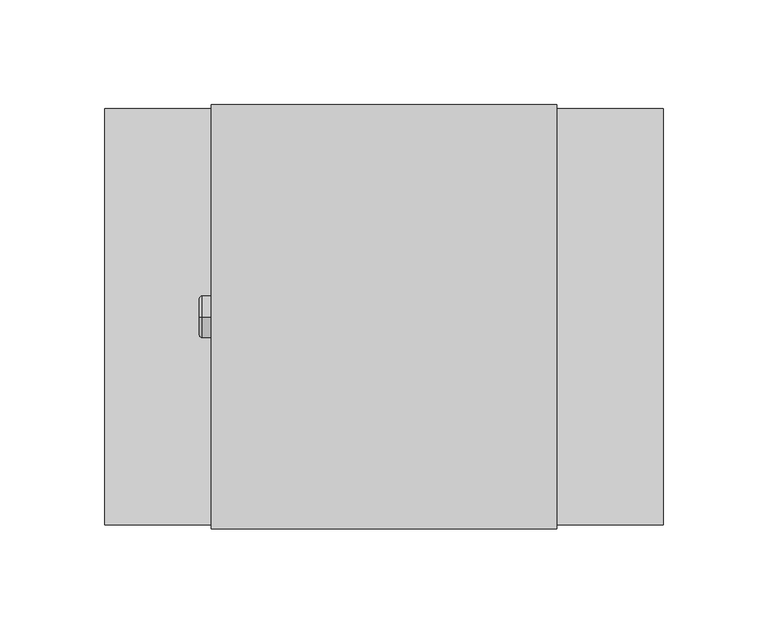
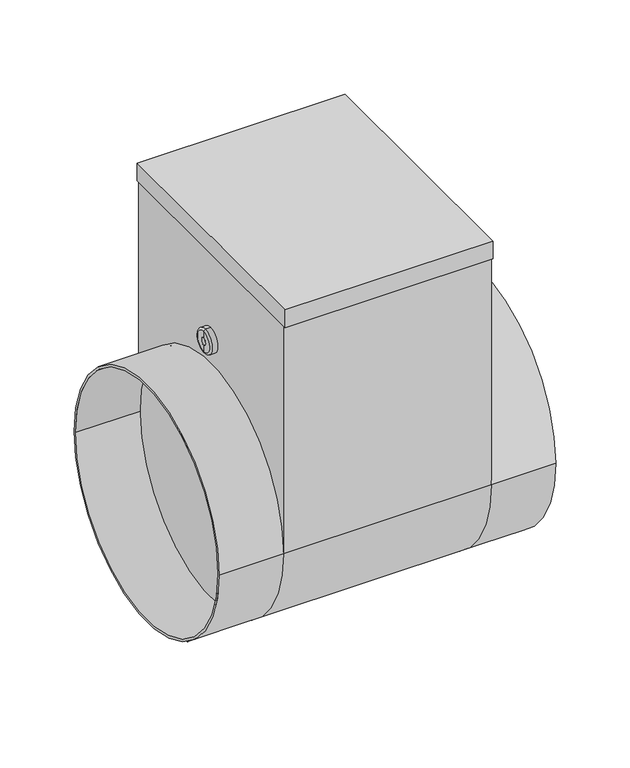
"""IFC4 building model written with IfcOpenShell, lengths in millimetres: proxy geometry, СВ_ВоздухонагревательЭлектрический_КанальныйКруглый_DN100-315_SKH-E : SKH-E-200/3."""

from ifc_helpers import new_model, si_unit, point, frame, origin, place, context, project, spatial, polyline, circle_curve, ellipse_curve, trimmed, outline, extrude, source, transform, mapped, element, save
from ifc_brep_helpers import plane_surface, cylinder_surface, revolved_surface, advanced_brep


def mechanical_equipment_28e9e6f9(model_context):
    return source(origin(), model_context, "Body", "SolidModel", [
        extrude(outline(polyline([(82.5, -101.5), (-82.5, -101.5), (-82.5, 101.5), (82.5, 101.5), (82.5, -101.5)])), frame((0.0, 0.0, 190.5), z_axis=(0.0, 0.0, 1.0), x_axis=(1.0, 0.0, 0.0)), (0.0, 0.0, 1.0), 15.0),
        advanced_brep(
        [(-133.5, -99.5, 0.0), (-133.5, 99.5, 0.0), (-133.5, -97.5, 0.0), (-133.5, 97.5, 0.0), (-82.5, 97.5, 0.0), (-82.5, -97.5, 0.0), (-82.5, 99.5, 0.0), (-82.5, -99.5, 0.0), (82.5, -97.5, 0.0), (82.5, 97.5, 0.0), (82.5, -99.5, 190.5), (82.5, -99.5, 0.0), (82.5, 99.5, 0.0), (82.5, 99.5, 190.5), (-82.5, -99.5, 190.5), (-82.5, 99.5, 190.5), (133.5, -99.5, 0.0), (133.5, 99.5, 0.0), (133.5, -97.5, 0.0), (133.5, 97.5, 0.0)],
        [
            (0, 1, circle_curve(frame((-133.5, 0.0, 0.0), z_axis=(-1.0, 0.0, 0.0), x_axis=(0.0, 1.0, 0.0)), 99.5)),
            (1, 0, circle_curve(frame((-133.5, 0.0, 0.0), z_axis=(-1.0, 0.0, 0.0), x_axis=(0.0, 1.0, 0.0)), 99.5)),
            (2, 3, circle_curve(frame((-133.5, 0.0, 0.0), z_axis=(1.0, 0.0, 0.0), x_axis=(0.0, 1.0, 0.0)), 97.5)),
            (3, 2, circle_curve(frame((-133.5, 0.0, 0.0), z_axis=(1.0, 0.0, 0.0), x_axis=(0.0, 1.0, 0.0)), 97.5)),
            (3, 4),
            (4, 5, circle_curve(frame((-82.5, 0.0, 0.0), z_axis=(1.0, 0.0, 0.0), x_axis=(0.0, 1.0, 0.0)), 97.5)),
            (5, 2),
            (5, 4, circle_curve(frame((-82.5, 0.0, 0.0), z_axis=(1.0, 0.0, 0.0), x_axis=(0.0, 1.0, 0.0)), 97.5)),
            (1, 6),
            (6, 7, circle_curve(frame((-82.5, 0.0, 0.0), z_axis=(-1.0, 0.0, 0.0), x_axis=(0.0, 1.0, 0.0)), 99.5)),
            (7, 0),
            (7, 6, circle_curve(frame((-82.5, 0.0, 0.0), z_axis=(-1.0, 0.0, 0.0), x_axis=(0.0, 1.0, 0.0)), 99.5)),
            (8, 9, circle_curve(frame((82.5, 0.0, 0.0), z_axis=(1.0, 0.0, 0.0), x_axis=(0.0, 1.0, 0.0)), 97.5)),
            (9, 8, circle_curve(frame((82.5, 0.0, 0.0), z_axis=(1.0, 0.0, 0.0), x_axis=(0.0, 1.0, 0.0)), 97.5)),
            (10, 11),
            (11, 12, circle_curve(frame((82.5, 0.0, 0.0), z_axis=(-1.0, 0.0, 0.0), x_axis=(0.0, 1.0, 0.0)), 99.5)),
            (12, 13),
            (13, 10),
            (7, 14),
            (14, 15),
            (15, 6),
            (6, 12),
            (12, 11, circle_curve(frame((82.5, 0.0, 0.0), z_axis=(-1.0, 0.0, 0.0), x_axis=(0.0, 1.0, 0.0)), 99.5)),
            (11, 7),
            (16, 17, circle_curve(frame((133.5, 0.0, 0.0), z_axis=(1.0, 0.0, 0.0), x_axis=(0.0, 1.0, 0.0)), 99.5)),
            (17, 16, circle_curve(frame((133.5, 0.0, 0.0), z_axis=(1.0, 0.0, 0.0), x_axis=(0.0, 1.0, 0.0)), 99.5)),
            (18, 19, circle_curve(frame((133.5, 0.0, 0.0), z_axis=(-1.0, 0.0, 0.0), x_axis=(0.0, 1.0, 0.0)), 97.5)),
            (19, 18, circle_curve(frame((133.5, 0.0, 0.0), z_axis=(-1.0, 0.0, 0.0), x_axis=(0.0, 1.0, 0.0)), 97.5)),
            (18, 8),
            (9, 19),
            (16, 11),
            (12, 17),
            (10, 14),
            (15, 13),
        ],
        [
            plane_surface(frame((-133.5, 97.5, 0.0), z_axis=(-1.0, 0.0, 0.0), x_axis=(0.0, 0.0, 1.0))),
            revolved_surface(polyline([(-133.5, 97.5, 0.0), (-82.5, 97.5, 0.0)]), (-133.5, 0.0, 0.0), (-1.0, 0.0, 0.0)),
            cylinder_surface(frame((0.0, 0.0, 0.0), z_axis=(1.0, 0.0, 0.0), x_axis=(0.0, 1.0, 0.0)), 99.5),
            plane_surface(frame((82.5, 99.5, 0.0), z_axis=(1.0, 0.0, 0.0), x_axis=(0.0, -1.0, 0.0))),
            plane_surface(frame((-82.5, 99.5, 0.0), z_axis=(-1.0, 0.0, 0.0), x_axis=(0.0, 1.0, 0.0))),
            cylinder_surface(frame((-82.5, 0.0, 0.0), z_axis=(1.0, 0.0, 0.0), x_axis=(0.0, 1.0, 0.0)), 99.5),
            plane_surface(frame((133.5, 97.5, 0.0), z_axis=(1.0, 0.0, 0.0), x_axis=(0.0, 0.0, -1.0))),
            revolved_surface(polyline([(82.5, 97.5, 0.0), (133.5, 97.5, 0.0)]), (82.5, 0.0, 0.0), (-1.0, 0.0, 0.0)),
            plane_surface(frame((-82.5, -99.5, 190.5), z_axis=(0.0, -1.0, 0.0), x_axis=(-1.0, 0.0, 0.0))),
            plane_surface(frame((-82.5, 99.5, 190.5), z_axis=(0.0, 1.0, 0.0), x_axis=(1.0, 0.0, 0.0))),
            plane_surface(frame((82.5, -99.5, 190.5), z_axis=(0.0, 0.0, 1.0), x_axis=(0.0, 1.0, 0.0))),
        ],
        [
            (0, [[1, 2], [3, 4]]),
            (1, [[-4, 5, 6, 7]]),
            (1, [[-3, -7, 8, -5]]),
            (2, [[-2, 9, 10, 11]]),
            (2, [[-1, -11, 12, -9]]),
            (3, [[13, 14]]),
            (3, [[15, 16, 17, 18]]),
            (4, [[-8, -6]]),
            (4, [[19, 20, 21, -12]]),
            (5, [[-10, 22, 23, 24]]),
            (6, [[25, 26], [27, 28]]),
            (7, [[-27, 29, -14, 30]]),
            (7, [[-28, -30, -13, -29]]),
            (2, [[-25, 31, -23, 32]]),
            (2, [[-26, -32, -16, -31]]),
            (8, [[33, -19, -24, -15]]),
            (9, [[-17, -22, -21, 34]]),
            (10, [[-33, -18, -34, -20]]),
        ],
    ),
        advanced_brep(
        [(-86.7840134, 0.0, 109.5), (-86.7840134, 0.0, 129.5), (-82.5, 0.0, 129.5), (-82.5, 0.0, 109.5), (-88.2459771, 0.0, 110.9619637), (-88.2459771, 0.0, 128.0380363), (-88.2459771, 0.0, 116.3948071), (-88.2459771, 0.0, 122.6051929), (-85.9138357, 0.0, 116.3948071), (-85.9138357, 0.0, 122.6051929), (-85.9138357, 0.0, 119.5), (-82.5, 0.0, 119.5)],
        [
            (0, 1, circle_curve(frame((-86.7840134, 0.0, 119.5), z_axis=(1.0, 0.0, 0.0), x_axis=(0.0, 0.0, 1.0)), 10.0)),
            (1, 2),
            (2, 3, circle_curve(frame((-82.5, 0.0, 119.5), z_axis=(-1.0, 0.0, 0.0), x_axis=(0.0, 0.0, 1.0)), 10.0)),
            (3, 0),
            (1, 0, circle_curve(frame((-86.7840134, 0.0, 119.5), z_axis=(1.0, 0.0, 0.0), x_axis=(0.0, 0.0, 1.0)), 10.0)),
            (3, 2, circle_curve(frame((-82.5, 0.0, 119.5), z_axis=(-1.0, 0.0, 0.0), x_axis=(0.0, 0.0, 1.0)), 10.0)),
            (4, 5, circle_curve(frame((-88.2459771, 0.0, 119.5), z_axis=(1.0, 0.0, 0.0), x_axis=(0.0, 0.0, 1.0)), 8.5380363)),
            (5, 1, circle_curve(frame((-86.7840134, 0.0, 128.0380363), z_axis=(0.0, 1.0, 0.0), x_axis=(1.0, 0.0, 0.0)), 1.4619637)),
            (0, 4, circle_curve(frame((-86.7840134, 0.0, 110.9619637), z_axis=(0.0, 1.0, 0.0), x_axis=(1.0, 0.0, 0.0)), 1.4619637)),
            (5, 4, circle_curve(frame((-88.2459771, 0.0, 119.5), z_axis=(1.0, 0.0, 0.0), x_axis=(0.0, 0.0, 1.0)), 8.5380363)),
            (6, 7, circle_curve(frame((-88.2459771, 0.0, 119.5), z_axis=(1.0, 0.0, 0.0), x_axis=(0.0, 0.0, 1.0)), 3.1051929)),
            (7, 5),
            (4, 6),
            (7, 6, circle_curve(frame((-88.2459771, 0.0, 119.5), z_axis=(1.0, 0.0, 0.0), x_axis=(0.0, 0.0, 1.0)), 3.1051929)),
            (8, 9, circle_curve(frame((-85.9138357, 0.0, 119.5), z_axis=(1.0, 0.0, 0.0), x_axis=(0.0, 0.0, 1.0)), 3.1051929)),
            (9, 7),
            (6, 8),
            (9, 8, circle_curve(frame((-85.9138357, 0.0, 119.5), z_axis=(1.0, 0.0, 0.0), x_axis=(0.0, 0.0, 1.0)), 3.1051929)),
            (10, 9),
            (8, 10),
            (2, 11),
            (11, 3),
        ],
        [
            cylinder_surface(frame((-118.1635229, 0.0, 119.5), z_axis=(-1.0, 0.0, 0.0), x_axis=(0.0, 0.0, 1.0)), 10.0),
            revolved_surface(trimmed(ellipse_curve(frame((-86.7840134, 0.0, 128.0380363), z_axis=(0.0, -1.0, 0.0), x_axis=(1.0, 0.0, 0.0)), 1.4619637, 1.4619637), [point((-86.7840134, 0.0, 129.5))], [point((-88.2459771, 0.0, 128.0380363))], True, "CARTESIAN"), (-118.1635229, 0.0, 119.5), (-1.0, 0.0, 0.0)),
            plane_surface(frame((-88.2459771, 0.0, 119.5), z_axis=(-1.0, 0.0, 0.0), x_axis=(0.0, 0.0, 1.0))),
            revolved_surface(polyline([(-88.2459771, 0.0, 122.6051929), (-85.9138357, 0.0, 122.6051929)]), (-118.1635229, 0.0, 119.5), (-1.0, 0.0, 0.0)),
            plane_surface(frame((-85.9138357, 0.0, 119.5), z_axis=(-1.0, 0.0, 0.0), x_axis=(0.0, 0.0, 1.0))),
            plane_surface(frame((-82.5, 0.0, 119.5), z_axis=(1.0, 0.0, 0.0), x_axis=(0.0, 0.0, 1.0))),
        ],
        [
            (0, [[1, 2, 3, 4]]),
            (0, [[5, -4, 6, -2]]),
            (1, [[7, 8, -1, 9]]),
            (1, [[10, -9, -5, -8]]),
            (2, [[11, 12, -7, 13]]),
            (2, [[14, -13, -10, -12]]),
            (3, [[15, 16, -11, 17]]),
            (3, [[18, -17, -14, -16]]),
            (4, [[19, -15, 20]]),
            (4, [[-20, -18, -19]]),
            (5, [[-3, 21, 22]]),
            (5, [[-6, -22, -21]]),
        ],
    ),
    ])


if __name__ == "__main__":
    model = new_model("IFC4")
    model_context = context("Model", 3, world=origin())
    ifc_project = project(units=[si_unit("LENGTHUNIT", "METRE", prefix="MILLI")], contexts=[model_context])
    site = spatial("IfcSite", under=ifc_project)
    building = spatial("IfcBuilding", under=site)
    placement = place(None, origin())
    mechanical_equipment_shape = mechanical_equipment_28e9e6f9(model_context)
    element("IfcBuildingElementProxy", 1, Name="СВ_ВоздухонагревательЭлектрический_КанальныйКруглый_DN100-315_SKH-E : SKH-E-200/3", ObjectType="СВ_ВоздухонагревательЭлектрический_КанальныйКруглый_DN100-315_SKH-E : SKH-E-200/3", at=placement, inside=building, context=model_context, shape_type="MappedRepresentation", body=[
        mapped(mechanical_equipment_shape, transform((0.0, 0.0, 0.0), x_axis=(1.0, 0.0, 0.0), y_axis=(0.0, 1.0, 0.0), z_axis=(0.0, 0.0, 1.0))),
    ])
    save(model, "model.ifc")
